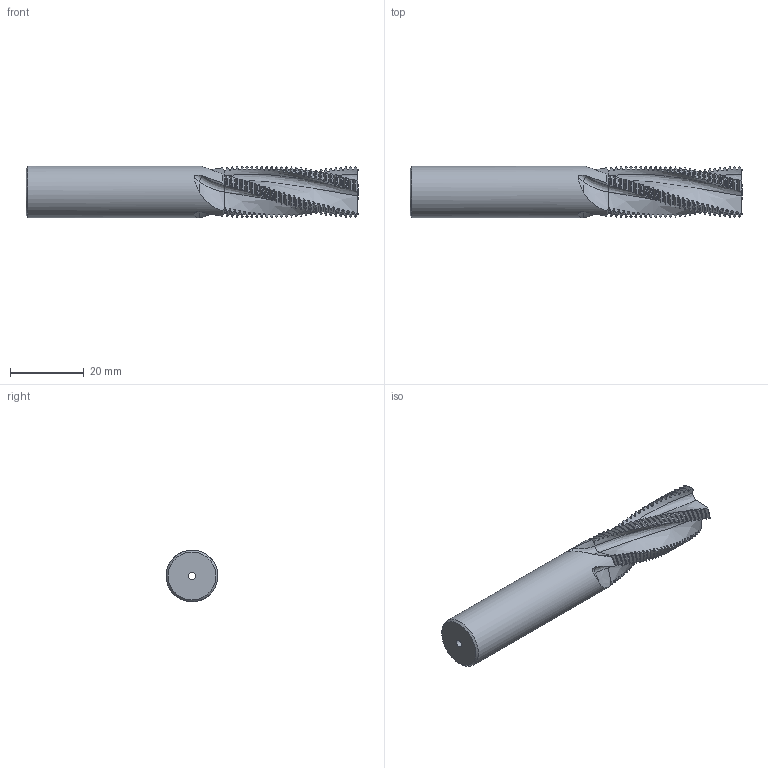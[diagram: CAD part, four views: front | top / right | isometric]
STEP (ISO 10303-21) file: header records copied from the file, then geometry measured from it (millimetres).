
FILE_DESCRIPTION(/* description */ (''),/* implementation_level */ '2;1');
FILE_NAME(/* name */ '00031678-STEP',/* time_stamp */ '2024-02-19T13:20:45+01:00',/* author */ (''),/* organization */ (''),/* preprocessor_version */ 'ST-DEVELOPER v16.5',/* originating_system */ 'HiCAD 2017 2201.0 Build 268',/* authorisation */ '');
FILE_SCHEMA (('AUTOMOTIVE_DESIGN { 1 0 10303 214 1 1 1 1 }'));
Products named in the file (2): Root; ROTATIONSTEIL_0
Assembly tree (1 placements, depth 2):
  Root
    ROTATIONSTEIL_0
Bounding box: 90 x 14 x 14 mm (x, y, z)
Volume: 10318.5 mm3; surface area: 5230.2 mm2
Topology: 1 solids, 1 shells, 701 faces, 2298 edges, 1599 vertices
Faces by surface type: torus 328, cone 221, cylinder 114, bspline 36, plane 2
Full cylindrical faces by diameter (mm): 2 x1, 14 x1
Entity records: 79642 total; most frequent: CARTESIAN_POINT 40763, PRESENTATION_STYLE_ASSIGNMENT 4585, COLOUR_RGB 4585, DRAUGHTING_PRE_DEFINED_CURVE_FONT 4584, CURVE_STYLE 4584, OVER_RIDING_STYLED_ITEM 4584, ORIENTED_EDGE 4584, DIRECTION 2670
